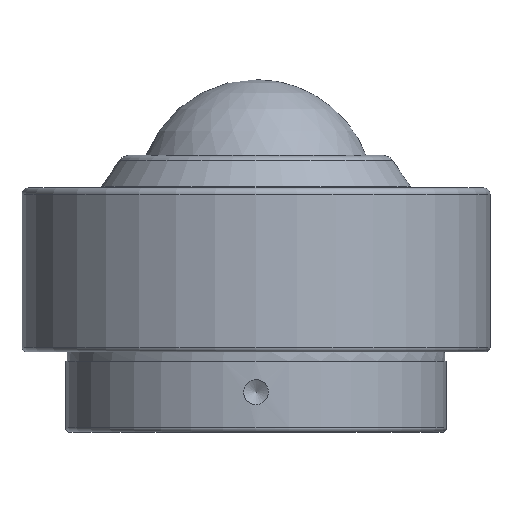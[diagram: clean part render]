
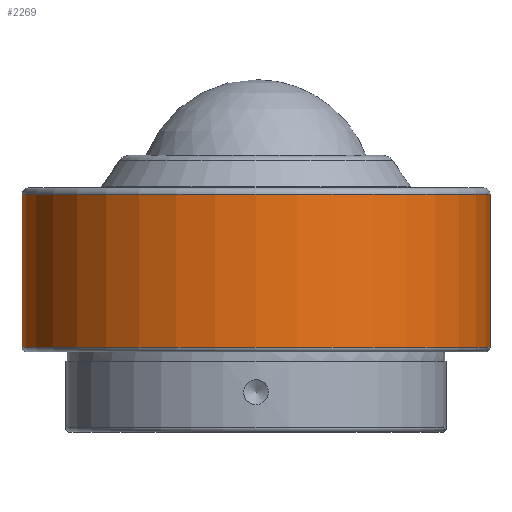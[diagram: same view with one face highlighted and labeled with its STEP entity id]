
A CAD part, front view. The second image highlights one B-rep face of the part: STEP entity #2269.
In plain terms, the highlighted cylindrical face has radius 75.6 mm (diameter 151.2 mm), a full revolution.
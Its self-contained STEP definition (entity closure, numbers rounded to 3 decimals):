
#51=CYLINDRICAL_SURFACE('',#2455,75.6);
#77=FACE_BOUND('',#460,.T.);
#118=CIRCLE('',#2454,75.6);
#119=CIRCLE('',#2456,75.6);
#277=FACE_OUTER_BOUND('',#459,.T.);
#459=EDGE_LOOP('',(#1820));
#460=EDGE_LOOP('',(#1821));
#1062=VERTEX_POINT('',#3666);
#1063=VERTEX_POINT('',#3669);
#1321=EDGE_CURVE('',#1062,#1062,#118,.T.);
#1322=EDGE_CURVE('',#1063,#1063,#119,.T.);
#1820=ORIENTED_EDGE('',*,*,#1322,.F.);
#1821=ORIENTED_EDGE('',*,*,#1321,.T.);
#2269=ADVANCED_FACE('',(#277,#77),#51,.T.);
#2454=AXIS2_PLACEMENT_3D('',#3667,#3043,#3044);
#2455=AXIS2_PLACEMENT_3D('',#3668,#3045,#3046);
#2456=AXIS2_PLACEMENT_3D('',#3670,#3047,#3048);
#3043=DIRECTION('center_axis',(0.,0.,1.));
#3044=DIRECTION('ref_axis',(0.,-1.,0.));
#3045=DIRECTION('center_axis',(0.,0.,1.));
#3046=DIRECTION('ref_axis',(0.,-1.,0.));
#3047=DIRECTION('center_axis',(0.,0.,1.));
#3048=DIRECTION('ref_axis',(0.,-1.,0.));
#3666=CARTESIAN_POINT('',(0.,-75.6,1.5));
#3667=CARTESIAN_POINT('Origin',(0.,0.,1.5));
#3668=CARTESIAN_POINT('Origin',(0.,0.,26.25));
#3669=CARTESIAN_POINT('',(0.,-75.6,51.));
#3670=CARTESIAN_POINT('Origin',(0.,0.,51.));
